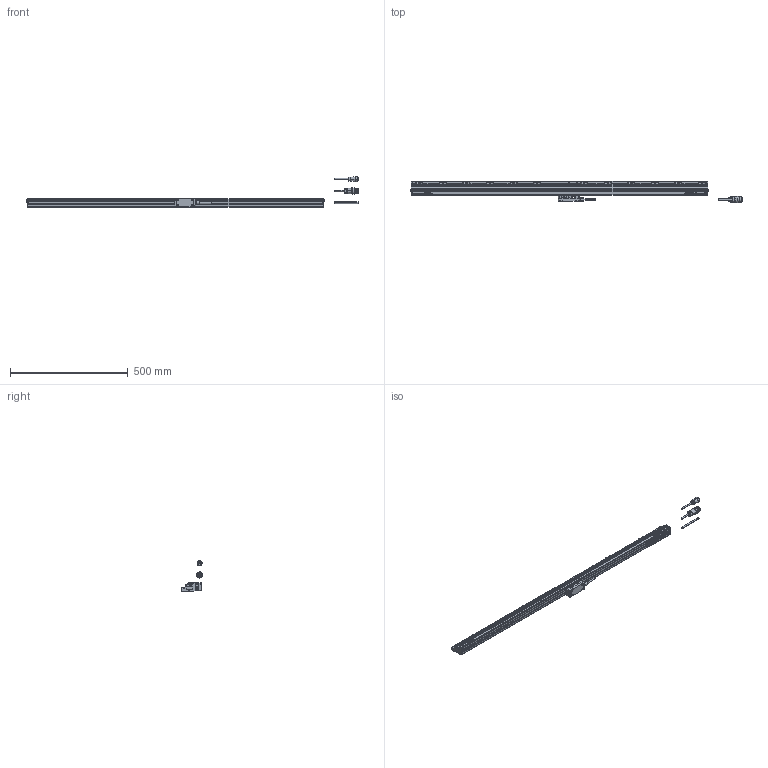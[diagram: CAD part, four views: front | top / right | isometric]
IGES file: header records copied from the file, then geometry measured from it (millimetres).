
Start section: Elysium IGES Interface
Global section: file name: 66H\\Utsu119s\kiyo_cad\data\3D\AT402E\HP掲載用_201708\AT402E-1140.igs; native system: Creo Elements/Direct Modeling 18.1B  29-Sep-2012; preprocessor: Creo Element/Direct IGES_3D V2.2; author: Unknown; organization: Unknown; date: 20180221.130440; units: millimetre
Bounding box: 1409.63 x 90 x 130.25 mm (x, y, z)
Volume: 2136697.2 mm3; surface area: 283474.5 mm2
Topology: 5 solids, 5 shells, 1291 faces, 3756 edges, 2539 vertices
Faces by surface type: bspline 1291
